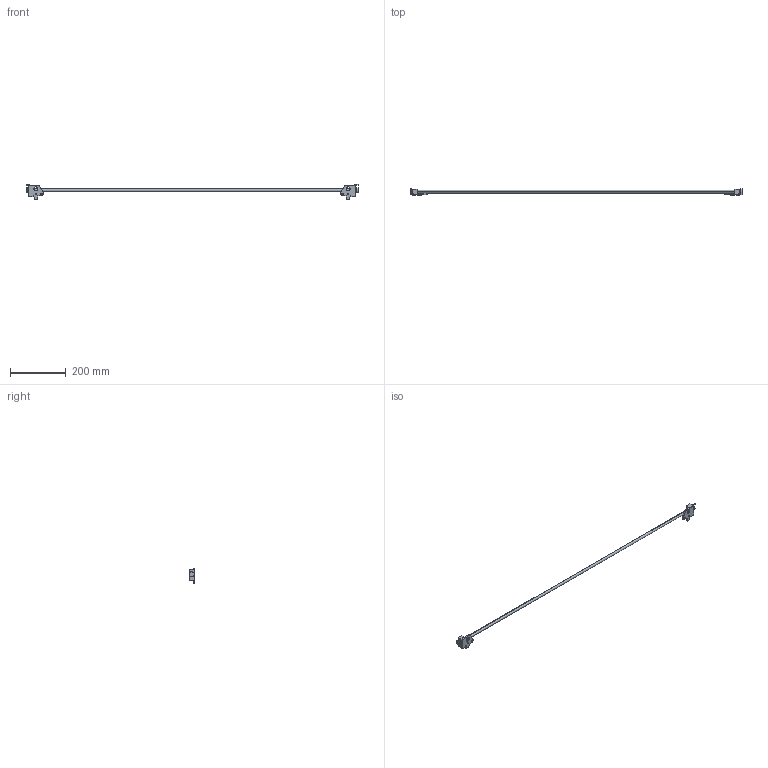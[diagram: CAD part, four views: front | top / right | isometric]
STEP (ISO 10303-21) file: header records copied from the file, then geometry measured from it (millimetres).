
FILE_DESCRIPTION (( 'STEP AP214' ), '1' );
FILE_NAME ('Seitenstabilisator-Set_KAB-1200.step', '2010-09-22T11:14:52', ( 'grass' ), ( '' ), 'SwSTEP 2.0', 'SolidWorks 2010', '' );
FILE_SCHEMA (( 'AUTOMOTIVE_DESIGN' ));
Length unit declared in the file: millimetre
Products named in the file (1): Seitenstabilisator-Set_KAB-1200
Bounding box: 1193 x 21.55 x 55.1 mm (x, y, z)
Volume: 133868.8 mm3; surface area: 51460.9 mm2
Topology: 1 solids, 1 shells, 66 faces, 174 edges, 116 vertices
Faces by surface type: plane 40, cylinder 26
Entity records: 2108 total; most frequent: DIRECTION 360, CARTESIAN_POINT 357, ORIENTED_EDGE 348, EDGE_CURVE 174, LINE 122, VECTOR 122, AXIS2_PLACEMENT_3D 119, VERTEX_POINT 116
